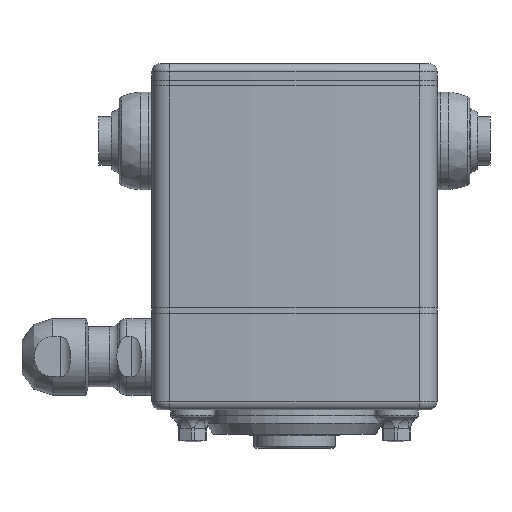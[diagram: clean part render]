
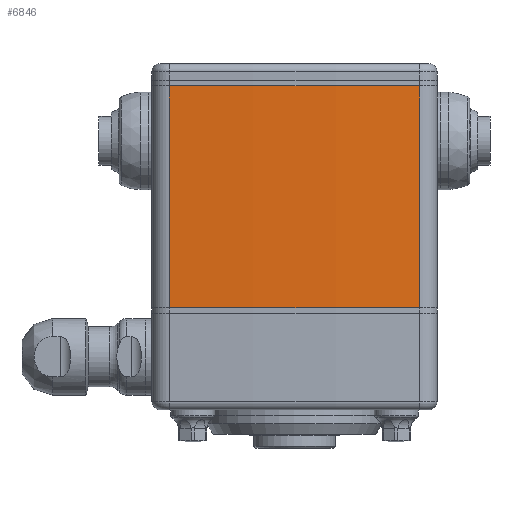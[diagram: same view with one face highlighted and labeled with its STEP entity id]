
A CAD part, front view. The second image highlights one B-rep face of the part: STEP entity #6846.
In plain terms, the highlighted cylindrical face has radius 470.125 mm (diameter 940.25 mm), a partial arc.
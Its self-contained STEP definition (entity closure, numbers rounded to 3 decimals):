
#127=CYLINDRICAL_SURFACE('',#7344,470.125);
#314=CIRCLE('',#7345,470.125);
#315=CIRCLE('',#7346,470.125);
#954=FACE_OUTER_BOUND('',#1336,.T.);
#1336=EDGE_LOOP('',(#5418,#5419,#5420,#5421));
#1853=LINE('',#12191,#2276);
#1854=LINE('',#12197,#2277);
#2276=VECTOR('',#8492,10.);
#2277=VECTOR('',#8499,10.);
#2986=VERTEX_POINT('',#12187);
#2987=VERTEX_POINT('',#12189);
#2988=VERTEX_POINT('',#12193);
#2989=VERTEX_POINT('',#12195);
#3872=EDGE_CURVE('',#2986,#2987,#1853,.T.);
#3873=EDGE_CURVE('',#2988,#2986,#314,.T.);
#3874=EDGE_CURVE('',#2989,#2987,#315,.T.);
#3875=EDGE_CURVE('',#2988,#2989,#1854,.T.);
#5418=ORIENTED_EDGE('',*,*,#3873,.T.);
#5419=ORIENTED_EDGE('',*,*,#3872,.T.);
#5420=ORIENTED_EDGE('',*,*,#3874,.F.);
#5421=ORIENTED_EDGE('',*,*,#3875,.F.);
#6846=ADVANCED_FACE('',(#954),#127,.T.);
#7344=AXIS2_PLACEMENT_3D('',#12192,#8493,#8494);
#7345=AXIS2_PLACEMENT_3D('',#12194,#8495,#8496);
#7346=AXIS2_PLACEMENT_3D('',#12196,#8497,#8498);
#8492=DIRECTION('',(0.,0.,-1.));
#8493=DIRECTION('center_axis',(0.,0.,-1.));
#8494=DIRECTION('ref_axis',(0.066,-0.998,0.));
#8495=DIRECTION('center_axis',(0.,0.,-1.));
#8496=DIRECTION('ref_axis',(0.066,-0.998,0.));
#8497=DIRECTION('center_axis',(0.,0.,-1.));
#8498=DIRECTION('ref_axis',(0.066,-0.998,0.));
#8499=DIRECTION('',(0.,0.,-1.));
#12187=CARTESIAN_POINT('',(-30.795,-28.99,0.));
#12189=CARTESIAN_POINT('',(-30.795,-28.99,-54.5));
#12191=CARTESIAN_POINT('',(-30.795,-28.99,0.));
#12192=CARTESIAN_POINT('Origin',(0.,440.125,
0.));
#12193=CARTESIAN_POINT('',(30.795,-28.99,0.));
#12194=CARTESIAN_POINT('Origin',(0.,440.125,
0.));
#12195=CARTESIAN_POINT('',(30.795,-28.99,-54.5));
#12196=CARTESIAN_POINT('Origin',(0.,440.125,
-54.5));
#12197=CARTESIAN_POINT('',(30.795,-28.99,0.));
